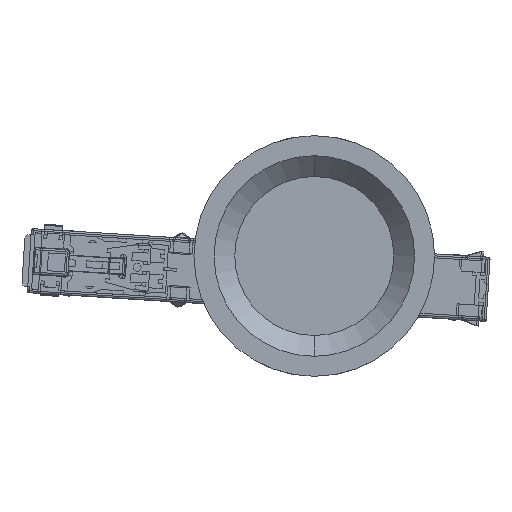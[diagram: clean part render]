
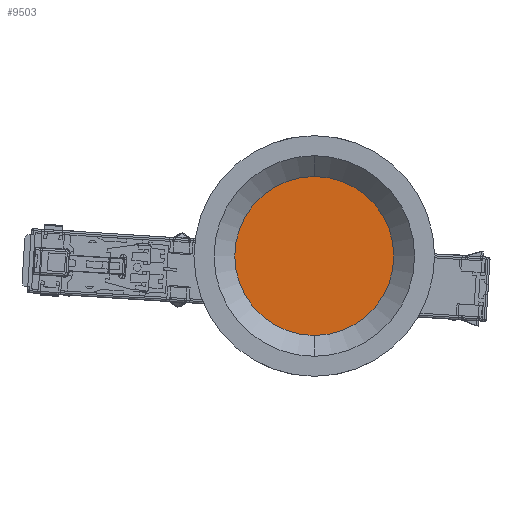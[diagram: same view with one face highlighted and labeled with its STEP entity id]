
A CAD part, front view. The second image highlights one B-rep face of the part: STEP entity #9503.
In plain terms, the highlighted planar face has unit normal (0, -1, 0).
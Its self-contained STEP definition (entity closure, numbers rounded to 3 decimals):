
#99 = DIRECTION ( 'NONE',  ( 0., 1., 0. ) ) ;
#1283 = CARTESIAN_POINT ( 'NONE',  ( 8.865, -719.024, 4.787 ) ) ;
#1699 = DIRECTION ( 'NONE',  ( 0., 0., 1. ) ) ;
#6637 = AXIS2_PLACEMENT_3D ( 'NONE', #10597, #52091, #1699 ) ;
#9503 = ADVANCED_FACE ( 'NONE', ( #52233 ), #43366, .F. ) ;
#10597 = CARTESIAN_POINT ( 'NONE',  ( 8.865, -719.024, 4.787 ) ) ;
#13827 = DIRECTION ( 'NONE',  ( 0., 1., 0. ) ) ;
#15644 = EDGE_LOOP ( 'NONE', ( #49804, #47405 ) ) ;
#15967 = CARTESIAN_POINT ( 'NONE',  ( 8.865, -719.024, -15.036 ) ) ;
#16486 = VERTEX_POINT ( 'NONE', #15967 ) ;
#26895 = DIRECTION ( 'NONE',  ( 0., 0., 1. ) ) ;
#28341 = EDGE_CURVE ( 'NONE', #28448, #16486, #37217, .T. ) ;
#28448 = VERTEX_POINT ( 'NONE', #38173 ) ;
#32414 = EDGE_CURVE ( 'NONE', #16486, #28448, #54612, .T. ) ;
#37217 = CIRCLE ( 'NONE', #41557, 19.822 ) ;
#38173 = CARTESIAN_POINT ( 'NONE',  ( 8.865, -719.024, 24.609 ) ) ;
#38310 = CARTESIAN_POINT ( 'NONE',  ( 8.865, -719.024, 4.787 ) ) ;
#41557 = AXIS2_PLACEMENT_3D ( 'NONE', #38310, #99, #51070 ) ;
#43366 = PLANE ( 'NONE',  #46017 ) ;
#46017 = AXIS2_PLACEMENT_3D ( 'NONE', #1283, #13827, #26895 ) ;
#47405 = ORIENTED_EDGE ( 'NONE', *, *, #28341, .F. ) ;
#49804 = ORIENTED_EDGE ( 'NONE', *, *, #32414, .F. ) ;
#51070 = DIRECTION ( 'NONE',  ( 0., 0., 1. ) ) ;
#52091 = DIRECTION ( 'NONE',  ( 0., 1., 0. ) ) ;
#52233 = FACE_OUTER_BOUND ( 'NONE', #15644, .T. ) ;
#54612 = CIRCLE ( 'NONE', #6637, 19.822 ) ;
